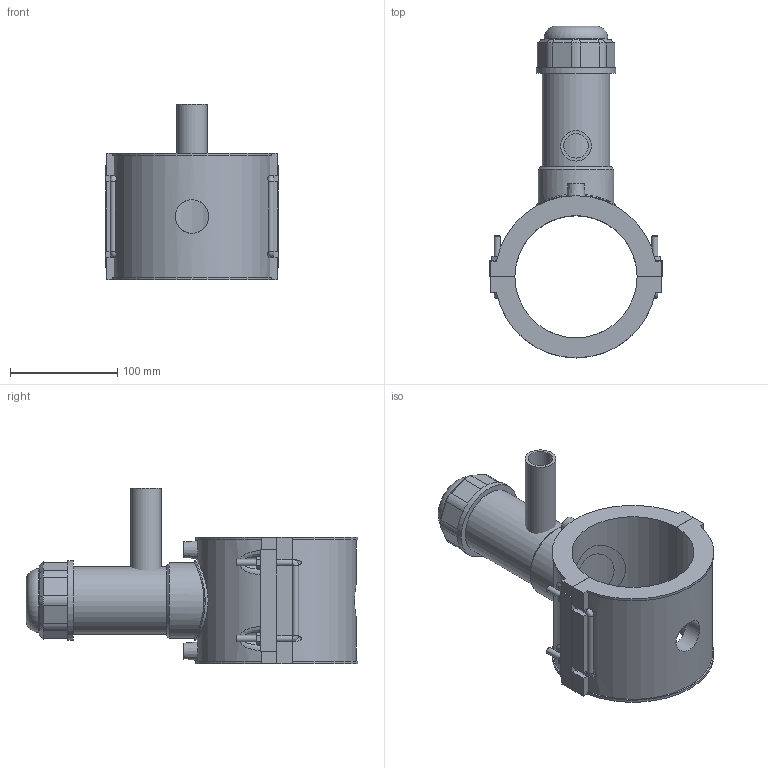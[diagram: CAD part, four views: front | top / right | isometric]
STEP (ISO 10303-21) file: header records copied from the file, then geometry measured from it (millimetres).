
FILE_DESCRIPTION(/* description */ ('PLASSON TAPPING SADDLE 4''''IPS x 1''''CTS'),/* implementation_level */ '2;1');
FILE_NAME(/* name */ 'C:\Dropbox\KIMPROJECTS-Inventor 2019\99-16-3568-Processing Inch\ASTM ElectroFusion 2021\5963BBP_5963BUP\5963BUP3040010.ipt.stp',/* time_stamp */ '2021-08-30T09:57:49+03:00',/* author */ ('KIM'),/* organization */ (''),/* preprocessor_version */ 'ST-DEVELOPER v17.2',/* originating_system */ 'Autodesk Inventor 2019',/* authorisation */ '');
FILE_SCHEMA (('AP203_CONFIGURATION_CONTROLLED_3D_DESIGN_OF_MECHANICAL_PARTS_AND_ASSEMBLIES_MIM_LF { 1 0 10303 203 3 1 4 }','AUTOMOTIVE_DESIGN { 1 0 10303 214 3 1 1 }'));
Length unit declared in the file: inch
Products named in the file (1): 5963BUP3040010
Bounding box: 161 x 309.74 x 163.96 mm (x, y, z)
Volume: 1238912.2 mm3; surface area: 222166.6 mm2
Topology: 3 solids, 3 shells, 195 faces, 500 edges, 321 vertices
Faces by surface type: plane 112, cylinder 54, cone 15, bspline 13, torus 1
Full cylindrical faces by diameter (mm): 4 x2, 6 x8, 10 x2, 22.76 x1, 28.45 x1, 31.36 x1, 51.915 x1, 59.332 x1, 63.04 x1, 70.457 x1, 74.165 x2
Entity records: 7084 total; most frequent: CARTESIAN_POINT 2337, ORIENTED_EDGE 984, DIRECTION 951, EDGE_CURVE 492, AXIS2_PLACEMENT_3D 325, VERTEX_POINT 321, LINE 301, VECTOR 301
